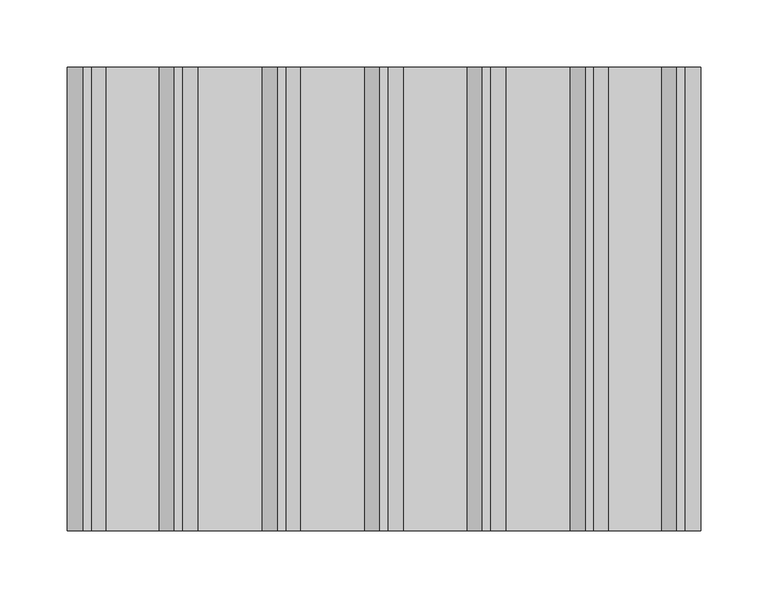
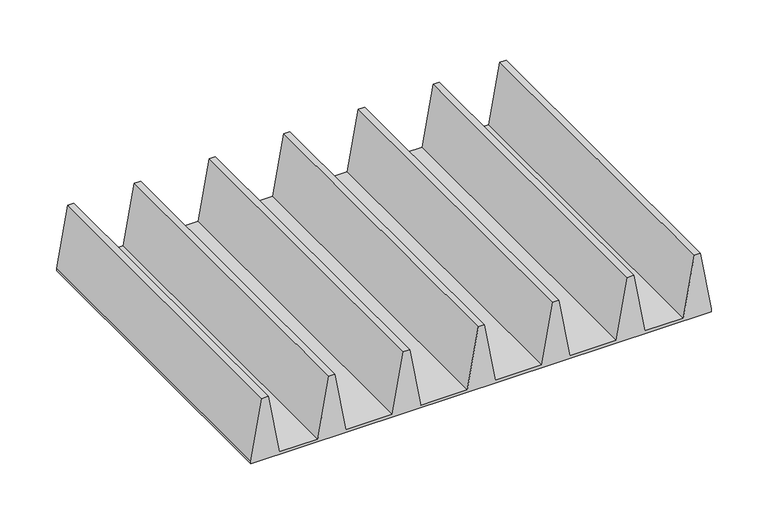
"""IFC4 building model written with IfcOpenShell, lengths in millimetres: furniture geometry."""

from ifc_helpers import new_model, si_unit, frame, origin, place, context, project, spatial, polyline, outline, extrude, source, transform, mapped, element, save


def furniture_820d7327(model_context):
    return source(origin(), model_context, "Body", "SweptSolid", [
        extrude(outline(polyline([(1301.6507812, -234.8826517), (1301.6507812, 235.0173483), (1304.6769531, 235.0173483), (1368.3257813, 223.7943426), (1368.3257813, 217.4443426), (1304.6769531, 206.221337), (1304.6769531, 166.865354), (1368.3257813, 155.6423483), (1368.3257813, 149.2923483), (1304.6769531, 138.0693426), (1304.6769531, 90.665354), (1368.3257813, 79.4423483), (1368.3257813, 73.0923483), (1304.6769531, 61.8693426), (1304.6769531, 14.465354), (1368.3257813, 3.2423483), (1368.3257813, -3.1076517), (1304.6769531, -14.3306574), (1304.6769531, -61.734646), (1368.3257813, -72.9576517), (1368.3257813, -79.3076517), (1304.6769531, -90.5306574), (1304.6769531, -137.934646), (1368.3257813, -149.1576517), (1368.3257813, -155.5076517), (1304.6769531, -166.7306574), (1304.6769531, -206.0866403), (1368.3257813, -217.309646), (1368.3257813, -223.659646), (1304.6769531, -234.8826517), (1301.6507812, -234.8826517)])), frame((0.0, -171.831, 0.0), z_axis=(0.0, 1.0, 0.0), x_axis=(0.0, 0.0, 1.0)), (0.0, 0.0, 1.0), 343.662),
    ])


if __name__ == "__main__":
    model = new_model("IFC4")
    model_context = context("Model", 3, world=origin())
    ifc_project = project(units=[si_unit("LENGTHUNIT", "METRE", prefix="MILLI")], contexts=[model_context])
    site = spatial("IfcSite", under=ifc_project)
    building = spatial("IfcBuilding", under=site)
    placement = place(None, origin())
    furniture_shape = furniture_820d7327(model_context)
    element("IfcFurniture", 1, ObjectType="HermanMiller_CoStruc_CO242_Subdivider Vane : 2 5/8\"Hx13 3/4\"D x 18 1/2\"W", at=placement, inside=building, context=model_context, shape_type="MappedRepresentation", body=[
        mapped(furniture_shape, transform((0.0, 0.0, 0.0), x_axis=(1.0, 0.0, 0.0), y_axis=(0.0, 1.0, 0.0), z_axis=(0.0, 0.0, 1.0))),
    ])
    save(model, "model.ifc")
